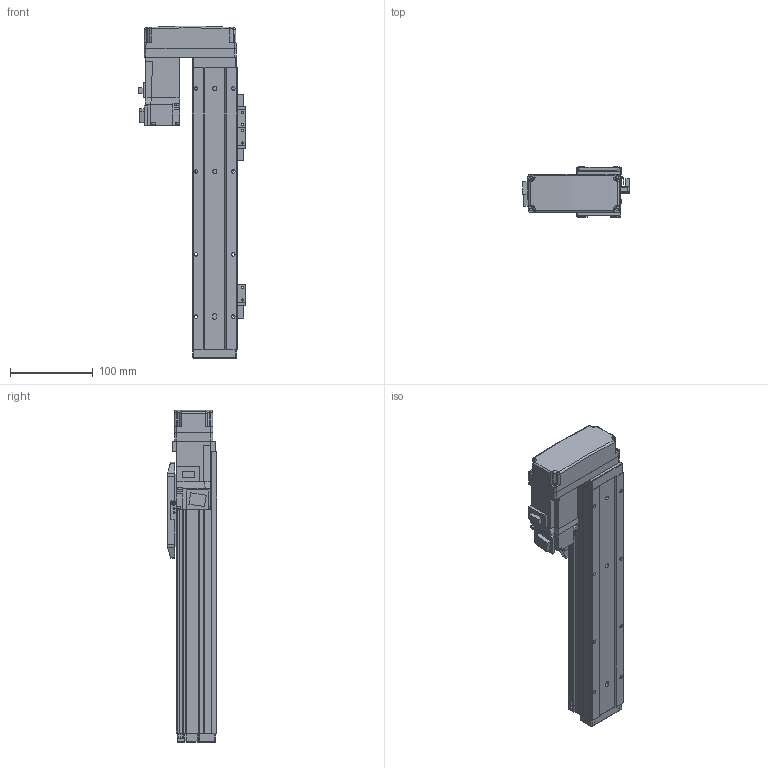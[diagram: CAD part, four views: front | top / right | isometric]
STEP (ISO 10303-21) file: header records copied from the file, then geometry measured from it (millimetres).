
FILE_DESCRIPTION (( 'STEP AP214' ), '1' );
FILE_NAME ('N_GRH5-200-BR-M10.step', '2025-03-14T10:57:50', ( '' ), ( '' ), 'SwSTEP 2.0', 'SolidWorks 2016', '' );
FILE_SCHEMA (( 'AUTOMOTIVE_DESIGN' ));
Length unit declared in the file: millimetre
Products named in the file (5): N_GRH5-BL-008^N_GRH5-200-BR-M10; N_GRH5-GY-011^N_GRH5-200-BR-M10; N_GRH5-GY-004^N_GRH5-200-BR-M10; N_GRH5-200-BR-M10; HF-KP13_100W_Motor^N_GRH5-200-BR-M10
Assembly tree (4 placements, depth 2):
  N_GRH5-200-BR-M10
    N_GRH5-GY-011^N_GRH5-200-BR-M10
    N_GRH5-GY-004^N_GRH5-200-BR-M10
    HF-KP13_100W_Motor^N_GRH5-200-BR-M10
    N_GRH5-BL-008^N_GRH5-200-BR-M10
Bounding box: 128.85 x 60 x 400.5 mm (x, y, z)
Volume: 977867.8 mm3; surface area: 230213.1 mm2
Topology: 4 solids, 5 shells, 924 faces, 2360 edges, 1493 vertices
Faces by surface type: plane 545, cylinder 304, cone 50, bspline 15, sphere 10
Entity records: 35235 total; most frequent: CARTESIAN_POINT 5543, DIRECTION 4745, ORIENTED_EDGE 4656, EDGE_CURVE 2328, VECTOR 1627, LINE 1627, AXIS2_PLACEMENT_3D 1559, VERTEX_POINT 1491
